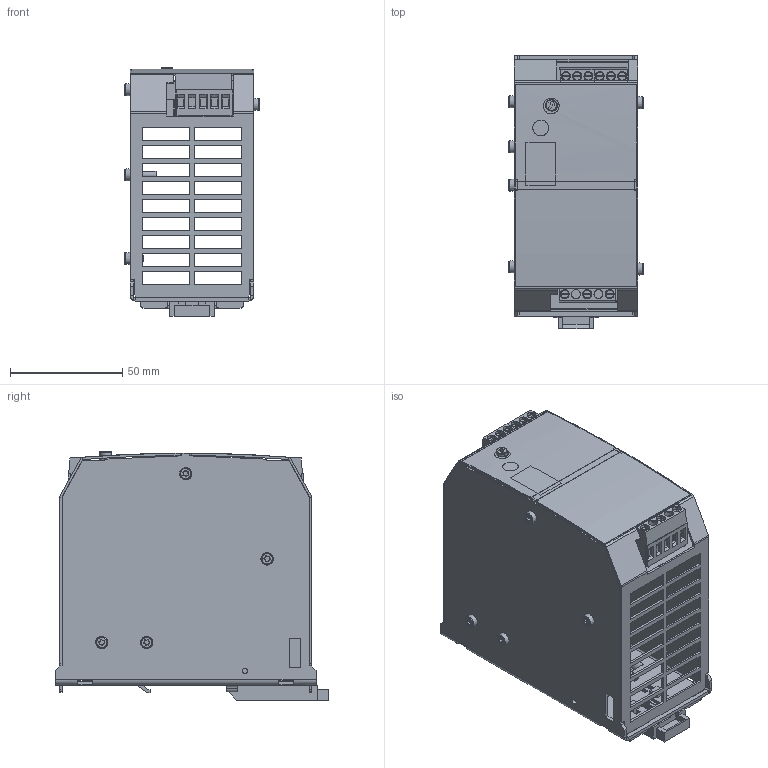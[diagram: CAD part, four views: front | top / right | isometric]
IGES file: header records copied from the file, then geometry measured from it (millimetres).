
Global section: file name: No Iges File Name specified; native system: Autodesk Inventor 2012; preprocessor: AutoDesk Inventor Iges Exporter R2012; author: Tecnico2; date: 20150423.170625; units: millimetre
Bounding box: 59.8 x 121.61 x 110.55 mm (x, y, z)
Volume: 76997.1 mm3; surface area: 113673.7 mm2
Topology: 44 solids, 44 shells, 2029 faces, 5180 edges, 3371 vertices
Faces by surface type: plane 1459, cylinder 243, revolution 169, bspline 76, torus 40, sphere 24, cone 18
Full cylindrical faces by diameter (mm): 0.3 x6, 0.8 x10, 1 x4, 1.4 x9, 1.52 x3, 2.675 x6, 2.8 x1, 3 x6, 3.85 x9, 4.7 x2, 5 x2, 7 x1, 9 x1, 10.5 x2
